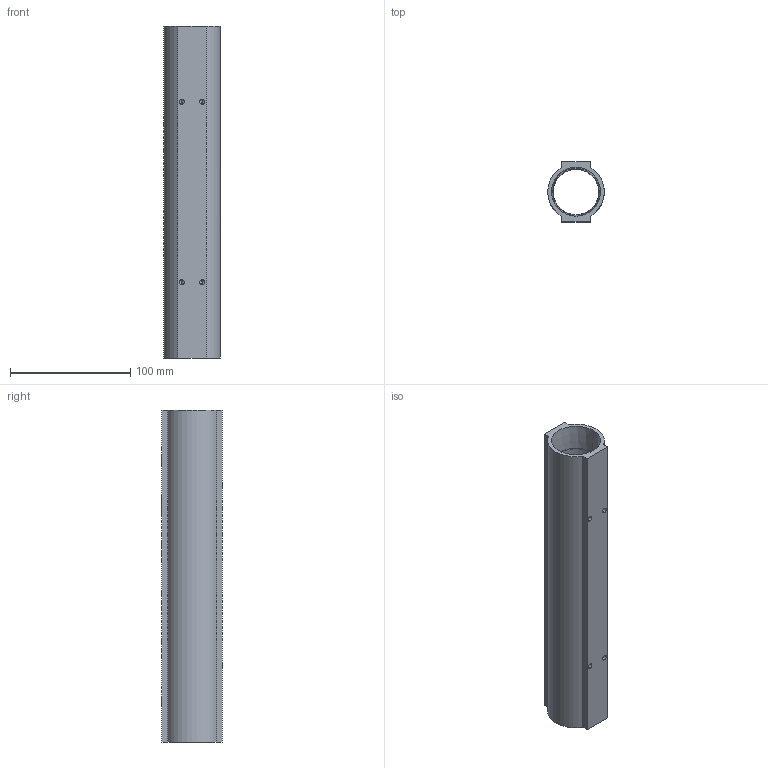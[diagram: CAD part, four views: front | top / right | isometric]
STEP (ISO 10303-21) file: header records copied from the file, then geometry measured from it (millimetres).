
FILE_DESCRIPTION (( 'STEP AP214' ), '1' );
FILE_NAME ('BWM6620R.STEP', '2022-03-15T05:44:13', ( '' ), ( '' ), 'SwSTEP 2.0', 'SolidWorks 2020', '' );
FILE_SCHEMA (( 'AUTOMOTIVE_DESIGN' ));
Length unit declared in the file: millimetre
Products named in the file (1): BWM6620R
Bounding box: 47 x 50 x 276 mm (x, y, z)
Volume: 186435 mm3; surface area: 79880.8 mm2
Topology: 1 solids, 1 shells, 212 faces, 568 edges, 372 vertices
Faces by surface type: plane 95, bspline 52, cylinder 41, cone 24
Entity records: 11942 total; most frequent: CARTESIAN_POINT 5275, ORIENTED_EDGE 1120, DIRECTION 720, EDGE_CURVE 560, VERTEX_POINT 372, LINE 274, VECTOR 274, EDGE_LOOP 248
